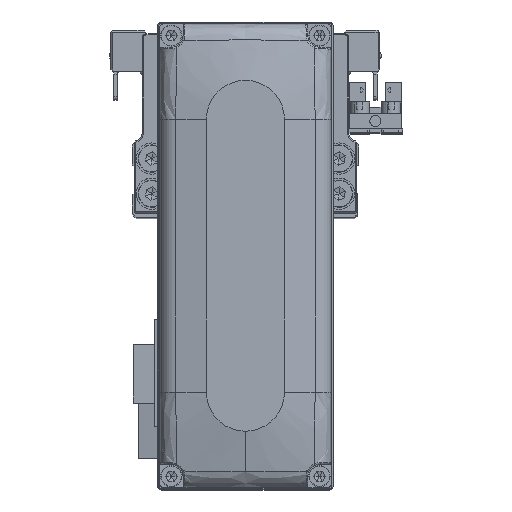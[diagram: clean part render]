
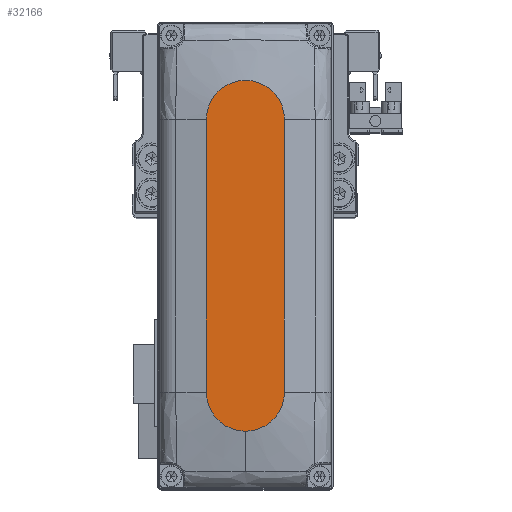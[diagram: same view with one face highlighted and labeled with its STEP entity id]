
A CAD part, top view. The second image highlights one B-rep face of the part: STEP entity #32166.
In plain terms, the highlighted planar face has unit normal (0, 0, 1).
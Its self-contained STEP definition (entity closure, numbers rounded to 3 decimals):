
#943 = VERTEX_POINT ( 'NONE', #27353 ) ;
#2093 = DIRECTION ( 'NONE',  ( 1., 0., 0. ) ) ;
#2724 = CARTESIAN_POINT ( 'NONE',  ( 35., -10., 28. ) ) ;
#4673 = EDGE_LOOP ( 'NONE', ( #35450, #36383, #19657, #20228, #21478 ) ) ;
#6157 = VERTEX_POINT ( 'NONE', #23200 ) ;
#6487 = LINE ( 'NONE', #17744, #23120 ) ;
#6705 = DIRECTION ( 'NONE',  ( 1., 0., 0. ) ) ;
#6730 = CARTESIAN_POINT ( 'NONE',  ( -35., 0., 28. ) ) ;
#6868 = CARTESIAN_POINT ( 'NONE',  ( 35., 0., 28. ) ) ;
#9348 = VERTEX_POINT ( 'NONE', #2724 ) ;
#9463 = PLANE ( 'NONE',  #13114 ) ;
#9774 = AXIS2_PLACEMENT_3D ( 'NONE', #16084, #27317, #2093 ) ;
#9880 = EDGE_CURVE ( 'NONE', #23154, #9348, #6487, .T. ) ;
#9953 = EDGE_CURVE ( 'NONE', #6157, #943, #10181, .T. ) ;
#10181 = CIRCLE ( 'NONE', #30779, 10. ) ;
#10759 = EDGE_CURVE ( 'NONE', #28646, #23154, #36112, .T. ) ;
#13114 = AXIS2_PLACEMENT_3D ( 'NONE', #20710, #31923, #6705 ) ;
#13855 = LINE ( 'NONE', #25072, #24866 ) ;
#16084 = CARTESIAN_POINT ( 'NONE',  ( 35., 0., 28. ) ) ;
#17744 = CARTESIAN_POINT ( 'NONE',  ( -35., -10., 28. ) ) ;
#17980 = DIRECTION ( 'NONE',  ( 0., 0., 1. ) ) ;
#18110 = DIRECTION ( 'NONE',  ( 0., 0., 1. ) ) ;
#19657 = ORIENTED_EDGE ( 'NONE', *, *, #9880, .T. ) ;
#20228 = ORIENTED_EDGE ( 'NONE', *, *, #25283, .T. ) ;
#20237 = AXIS2_PLACEMENT_3D ( 'NONE', #6730, #17980, #29189 ) ;
#20710 = CARTESIAN_POINT ( 'NONE',  ( 0., 0., 28. ) ) ;
#21478 = ORIENTED_EDGE ( 'NONE', *, *, #9953, .T. ) ;
#22429 = CARTESIAN_POINT ( 'NONE',  ( -35., -10., 28. ) ) ;
#22694 = EDGE_CURVE ( 'NONE', #943, #28646, #13855, .T. ) ;
#23120 = VECTOR ( 'NONE', #28957, 1000. ) ;
#23154 = VERTEX_POINT ( 'NONE', #22429 ) ;
#23200 = CARTESIAN_POINT ( 'NONE',  ( 45., 0., 28. ) ) ;
#24866 = VECTOR ( 'NONE', #36296, 1000. ) ;
#25072 = CARTESIAN_POINT ( 'NONE',  ( -35., 10., 28. ) ) ;
#25283 = EDGE_CURVE ( 'NONE', #9348, #6157, #25663, .T. ) ;
#25663 = CIRCLE ( 'NONE', #9774, 10. ) ;
#27317 = DIRECTION ( 'NONE',  ( 0., 0., 1. ) ) ;
#27353 = CARTESIAN_POINT ( 'NONE',  ( 35., 10., 28. ) ) ;
#28646 = VERTEX_POINT ( 'NONE', #28892 ) ;
#28892 = CARTESIAN_POINT ( 'NONE',  ( -35., 10., 28. ) ) ;
#28957 = DIRECTION ( 'NONE',  ( 1., 0., 0. ) ) ;
#29189 = DIRECTION ( 'NONE',  ( 1., 0., 0. ) ) ;
#29316 = DIRECTION ( 'NONE',  ( 1., 0., 0. ) ) ;
#30779 = AXIS2_PLACEMENT_3D ( 'NONE', #6868, #18110, #29316 ) ;
#31923 = DIRECTION ( 'NONE',  ( 0., 0., 1. ) ) ;
#32166 = ADVANCED_FACE ( 'NONE', ( #34679 ), #9463, .T. ) ;
#34679 = FACE_OUTER_BOUND ( 'NONE', #4673, .T. ) ;
#35450 = ORIENTED_EDGE ( 'NONE', *, *, #22694, .T. ) ;
#36112 = CIRCLE ( 'NONE', #20237, 10. ) ;
#36296 = DIRECTION ( 'NONE',  ( -1., 0., 0. ) ) ;
#36383 = ORIENTED_EDGE ( 'NONE', *, *, #10759, .T. ) ;
